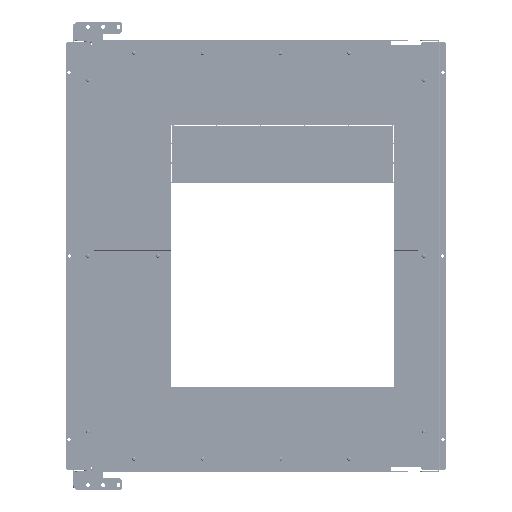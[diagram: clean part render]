
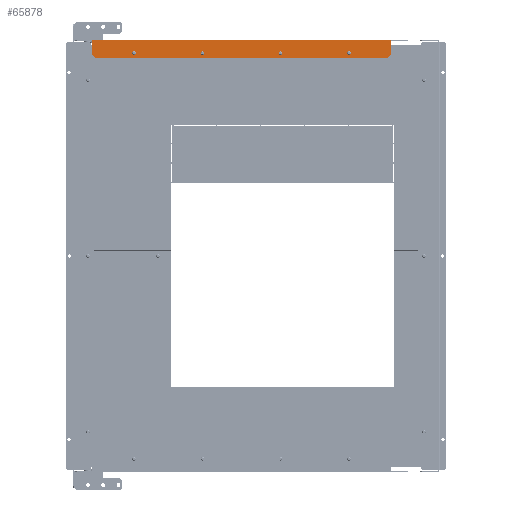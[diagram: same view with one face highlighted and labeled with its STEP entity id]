
A CAD part, left-side view. The second image highlights one B-rep face of the part: STEP entity #65878.
In plain terms, the highlighted planar face has unit normal (-1, 0, 0).
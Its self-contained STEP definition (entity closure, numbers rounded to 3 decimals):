
#1162 = DIRECTION ( 'NONE',  ( 1., 0., 0. ) ) ;
#2508 = DIRECTION ( 'NONE',  ( 0., 1., 0. ) ) ;
#3843 = VERTEX_POINT ( 'NONE', #114091 ) ;
#4288 = EDGE_CURVE ( 'NONE', #99668, #29863, #45544, .T. ) ;
#5335 = EDGE_CURVE ( 'NONE', #29863, #3843, #84868, .T. ) ;
#6993 = VERTEX_POINT ( 'NONE', #12153 ) ;
#7380 = VERTEX_POINT ( 'NONE', #36592 ) ;
#7527 = VERTEX_POINT ( 'NONE', #113904 ) ;
#7635 = CARTESIAN_POINT ( 'NONE',  ( -158., -496., 351.5 ) ) ;
#8099 = CARTESIAN_POINT ( 'NONE',  ( -158., -427.5, 332. ) ) ;
#9589 = VERTEX_POINT ( 'NONE', #113076 ) ;
#10883 = DIRECTION ( 'NONE',  ( -1., 0., 0. ) ) ;
#11677 = EDGE_CURVE ( 'NONE', #3843, #87416, #54308, .T. ) ;
#12153 = CARTESIAN_POINT ( 'NONE',  ( -158., -188.191, 334.919 ) ) ;
#12227 = VERTEX_POINT ( 'NONE', #100195 ) ;
#15464 = LINE ( 'NONE', #114022, #86985 ) ;
#15472 = DIRECTION ( 'NONE',  ( 0., 0., 1. ) ) ;
#16394 = FACE_BOUND ( 'NONE', #45658, .T. ) ;
#16554 = DIRECTION ( 'NONE',  ( 0., 1., 0. ) ) ;
#17347 = CARTESIAN_POINT ( 'NONE',  ( -158., -6.5, 351.5 ) ) ;
#18115 = FACE_BOUND ( 'NONE', #30388, .T. ) ;
#18956 = VERTEX_POINT ( 'NONE', #25926 ) ;
#19836 = CARTESIAN_POINT ( 'NONE',  ( -158., -251.25, 354. ) ) ;
#20761 = EDGE_CURVE ( 'NONE', #69164, #99668, #15464, .T. ) ;
#25926 = CARTESIAN_POINT ( 'NONE',  ( -158., -316.146, 334.773 ) ) ;
#26647 = CARTESIAN_POINT ( 'NONE',  ( -158., -186.809, 329.081 ) ) ;
#27438 = ORIENTED_EDGE ( 'NONE', *, *, #5335, .T. ) ;
#27946 = VECTOR ( 'NONE', #52948, 1000. ) ;
#29517 = VERTEX_POINT ( 'NONE', #88911 ) ;
#29863 = VERTEX_POINT ( 'NONE', #37981 ) ;
#30388 = EDGE_LOOP ( 'NONE', ( #78910, #67302 ) ) ;
#30935 = CARTESIAN_POINT ( 'NONE',  ( -158., -315., 332. ) ) ;
#31934 = EDGE_CURVE ( 'NONE', #7380, #29517, #79771, .T. ) ;
#32362 = DIRECTION ( 'NONE',  ( 0., 1., 0. ) ) ;
#34795 = DIRECTION ( 'NONE',  ( 0., 1., 0. ) ) ;
#35498 = EDGE_LOOP ( 'NONE', ( #104263, #53088, #59588, #73273, #111457, #27438, #105301, #82916 ) ) ;
#35706 = VERTEX_POINT ( 'NONE', #110331 ) ;
#36592 = CARTESIAN_POINT ( 'NONE',  ( -158., -6.5, 351.5 ) ) ;
#37281 = VECTOR ( 'NONE', #66202, 1000. ) ;
#37981 = CARTESIAN_POINT ( 'NONE',  ( -158., -491., 324.5 ) ) ;
#39955 = CARTESIAN_POINT ( 'NONE',  ( -158., -187.5, 332. ) ) ;
#41115 = DIRECTION ( 'NONE',  ( -1., 0., 0. ) ) ;
#42228 = CARTESIAN_POINT ( 'NONE',  ( -158., -11.5, 324.5 ) ) ;
#44703 = CARTESIAN_POINT ( 'NONE',  ( -158., -75., 332. ) ) ;
#45157 = CARTESIAN_POINT ( 'NONE',  ( -158., -427.5, 332. ) ) ;
#45544 = LINE ( 'NONE', #106218, #74351 ) ;
#45658 = EDGE_LOOP ( 'NONE', ( #57153, #104016 ) ) ;
#46348 = CIRCLE ( 'NONE', #85422, 3. ) ;
#46925 = AXIS2_PLACEMENT_3D ( 'NONE', #55273, #10883, #110052 ) ;
#48417 = CARTESIAN_POINT ( 'NONE',  ( -158., -6.5, 354. ) ) ;
#48996 = DIRECTION ( 'NONE',  ( 0., 0., -1. ) ) ;
#49084 = EDGE_CURVE ( 'NONE', #87416, #12227, #52212, .T. ) ;
#49232 = AXIS2_PLACEMENT_3D ( 'NONE', #99768, #96477, #16554 ) ;
#49470 = VERTEX_POINT ( 'NONE', #86514 ) ;
#50921 = VECTOR ( 'NONE', #88119, 1000. ) ;
#50970 = VERTEX_POINT ( 'NONE', #107324 ) ;
#51743 = AXIS2_PLACEMENT_3D ( 'NONE', #39955, #41115, #32362 ) ;
#52212 = LINE ( 'NONE', #87795, #109793 ) ;
#52948 = DIRECTION ( 'NONE',  ( 0., 0., 1. ) ) ;
#53088 = ORIENTED_EDGE ( 'NONE', *, *, #31934, .F. ) ;
#53736 = FACE_OUTER_BOUND ( 'NONE', #35498, .T. ) ;
#53918 = DIRECTION ( 'NONE',  ( -1., 0., 0. ) ) ;
#54308 = LINE ( 'NONE', #108508, #104639 ) ;
#55273 = CARTESIAN_POINT ( 'NONE',  ( -158., -75., 332. ) ) ;
#57153 = ORIENTED_EDGE ( 'NONE', *, *, #62796, .F. ) ;
#57182 = DIRECTION ( 'NONE',  ( 0., 1., 0. ) ) ;
#58678 = DIRECTION ( 'NONE',  ( 0., -0.707, -0.707 ) ) ;
#59588 = ORIENTED_EDGE ( 'NONE', *, *, #87729, .T. ) ;
#60113 = LINE ( 'NONE', #71199, #50921 ) ;
#62187 = EDGE_LOOP ( 'NONE', ( #104910, #65058 ) ) ;
#62452 = FACE_BOUND ( 'NONE', #92266, .T. ) ;
#62796 = EDGE_CURVE ( 'NONE', #35706, #49470, #102782, .T. ) ;
#65058 = ORIENTED_EDGE ( 'NONE', *, *, #94739, .F. ) ;
#65878 = ADVANCED_FACE ( 'NONE', ( #16394, #18115, #62452, #107938, #53736 ), #89888, .F. ) ;
#66202 = DIRECTION ( 'NONE',  ( 0., -0.707, 0.707 ) ) ;
#66782 = CARTESIAN_POINT ( 'NONE',  ( -158., -385.875, 219.375 ) ) ;
#67302 = ORIENTED_EDGE ( 'NONE', *, *, #111157, .F. ) ;
#69164 = VERTEX_POINT ( 'NONE', #83627 ) ;
#69171 = CIRCLE ( 'NONE', #82157, 3. ) ;
#69706 = CIRCLE ( 'NONE', #49232, 3. ) ;
#71126 = EDGE_CURVE ( 'NONE', #29517, #12227, #60113, .T. ) ;
#71141 = DIRECTION ( 'NONE',  ( 0., 1., 0. ) ) ;
#71199 = CARTESIAN_POINT ( 'NONE',  ( -158., -251.25, 354. ) ) ;
#73273 = ORIENTED_EDGE ( 'NONE', *, *, #20761, .T. ) ;
#73304 = ORIENTED_EDGE ( 'NONE', *, *, #115382, .F. ) ;
#74351 = VECTOR ( 'NONE', #81116, 1000. ) ;
#74700 = DIRECTION ( 'NONE',  ( -1., 0., 0. ) ) ;
#74878 = CIRCLE ( 'NONE', #108319, 3. ) ;
#76690 = EDGE_CURVE ( 'NONE', #112068, #6993, #102011, .T. ) ;
#77838 = AXIS2_PLACEMENT_3D ( 'NONE', #30935, #74700, #57182 ) ;
#78910 = ORIENTED_EDGE ( 'NONE', *, *, #76690, .F. ) ;
#79771 = LINE ( 'NONE', #17347, #27946 ) ;
#80099 = DIRECTION ( 'NONE',  ( 0., 1., 0. ) ) ;
#80274 = DIRECTION ( 'NONE',  ( -1., 0., 0. ) ) ;
#81116 = DIRECTION ( 'NONE',  ( 0., -1., 0. ) ) ;
#81811 = CARTESIAN_POINT ( 'NONE',  ( -158., -315., 332. ) ) ;
#82157 = AXIS2_PLACEMENT_3D ( 'NONE', #44703, #80274, #34795 ) ;
#82916 = ORIENTED_EDGE ( 'NONE', *, *, #49084, .T. ) ;
#83627 = CARTESIAN_POINT ( 'NONE',  ( -158., -6.5, 329.5 ) ) ;
#84868 = LINE ( 'NONE', #66782, #37281 ) ;
#84886 = AXIS2_PLACEMENT_3D ( 'NONE', #19836, #1162, #91026 ) ;
#85422 = AXIS2_PLACEMENT_3D ( 'NONE', #81811, #108637, #80099 ) ;
#86514 = CARTESIAN_POINT ( 'NONE',  ( -158., -75.314, 334.984 ) ) ;
#86985 = VECTOR ( 'NONE', #58678, 1000. ) ;
#87416 = VERTEX_POINT ( 'NONE', #7635 ) ;
#87729 = EDGE_CURVE ( 'NONE', #7380, #69164, #100331, .T. ) ;
#87795 = CARTESIAN_POINT ( 'NONE',  ( -158., -496., 351.5 ) ) ;
#88119 = DIRECTION ( 'NONE',  ( 0., -1., 0. ) ) ;
#88911 = CARTESIAN_POINT ( 'NONE',  ( -158., -6.5, 354. ) ) ;
#89015 = CIRCLE ( 'NONE', #77838, 3. ) ;
#89888 = PLANE ( 'NONE',  #84886 ) ;
#91026 = DIRECTION ( 'NONE',  ( 0., 0., -1. ) ) ;
#92265 = CIRCLE ( 'NONE', #107163, 3. ) ;
#92266 = EDGE_LOOP ( 'NONE', ( #73304, #108559 ) ) ;
#94739 = EDGE_CURVE ( 'NONE', #50970, #9589, #74878, .T. ) ;
#96477 = DIRECTION ( 'NONE',  ( -1., 0., 0. ) ) ;
#99668 = VERTEX_POINT ( 'NONE', #42228 ) ;
#99768 = CARTESIAN_POINT ( 'NONE',  ( -158., -187.5, 332. ) ) ;
#100195 = CARTESIAN_POINT ( 'NONE',  ( -158., -496., 354. ) ) ;
#100331 = LINE ( 'NONE', #48417, #111782 ) ;
#101733 = EDGE_CURVE ( 'NONE', #9589, #50970, #92265, .T. ) ;
#102011 = CIRCLE ( 'NONE', #51743, 3. ) ;
#102782 = CIRCLE ( 'NONE', #46925, 3. ) ;
#104016 = ORIENTED_EDGE ( 'NONE', *, *, #109857, .F. ) ;
#104263 = ORIENTED_EDGE ( 'NONE', *, *, #71126, .F. ) ;
#104639 = VECTOR ( 'NONE', #107936, 1000. ) ;
#104910 = ORIENTED_EDGE ( 'NONE', *, *, #101733, .F. ) ;
#105278 = EDGE_CURVE ( 'NONE', #18956, #7527, #89015, .T. ) ;
#105301 = ORIENTED_EDGE ( 'NONE', *, *, #11677, .T. ) ;
#106218 = CARTESIAN_POINT ( 'NONE',  ( -158., -251.25, 324.5 ) ) ;
#107163 = AXIS2_PLACEMENT_3D ( 'NONE', #8099, #114854, #71141 ) ;
#107324 = CARTESIAN_POINT ( 'NONE',  ( -158., -429.148, 334.507 ) ) ;
#107936 = DIRECTION ( 'NONE',  ( 0., 0., 1. ) ) ;
#107938 = FACE_BOUND ( 'NONE', #62187, .T. ) ;
#108319 = AXIS2_PLACEMENT_3D ( 'NONE', #45157, #53918, #2508 ) ;
#108508 = CARTESIAN_POINT ( 'NONE',  ( -158., -496., 354. ) ) ;
#108559 = ORIENTED_EDGE ( 'NONE', *, *, #105278, .F. ) ;
#108637 = DIRECTION ( 'NONE',  ( -1., 0., 0. ) ) ;
#109793 = VECTOR ( 'NONE', #15472, 1000. ) ;
#109857 = EDGE_CURVE ( 'NONE', #49470, #35706, #69171, .T. ) ;
#110052 = DIRECTION ( 'NONE',  ( 0., 1., 0. ) ) ;
#110331 = CARTESIAN_POINT ( 'NONE',  ( -158., -74.686, 329.016 ) ) ;
#111157 = EDGE_CURVE ( 'NONE', #6993, #112068, #69706, .T. ) ;
#111457 = ORIENTED_EDGE ( 'NONE', *, *, #4288, .T. ) ;
#111782 = VECTOR ( 'NONE', #48996, 1000. ) ;
#112068 = VERTEX_POINT ( 'NONE', #26647 ) ;
#113076 = CARTESIAN_POINT ( 'NONE',  ( -158., -425.852, 329.493 ) ) ;
#113904 = CARTESIAN_POINT ( 'NONE',  ( -158., -313.854, 329.227 ) ) ;
#114022 = CARTESIAN_POINT ( 'NONE',  ( -158., -116.625, 219.375 ) ) ;
#114091 = CARTESIAN_POINT ( 'NONE',  ( -158., -496., 329.5 ) ) ;
#114854 = DIRECTION ( 'NONE',  ( -1., 0., 0. ) ) ;
#115382 = EDGE_CURVE ( 'NONE', #7527, #18956, #46348, .T. ) ;
